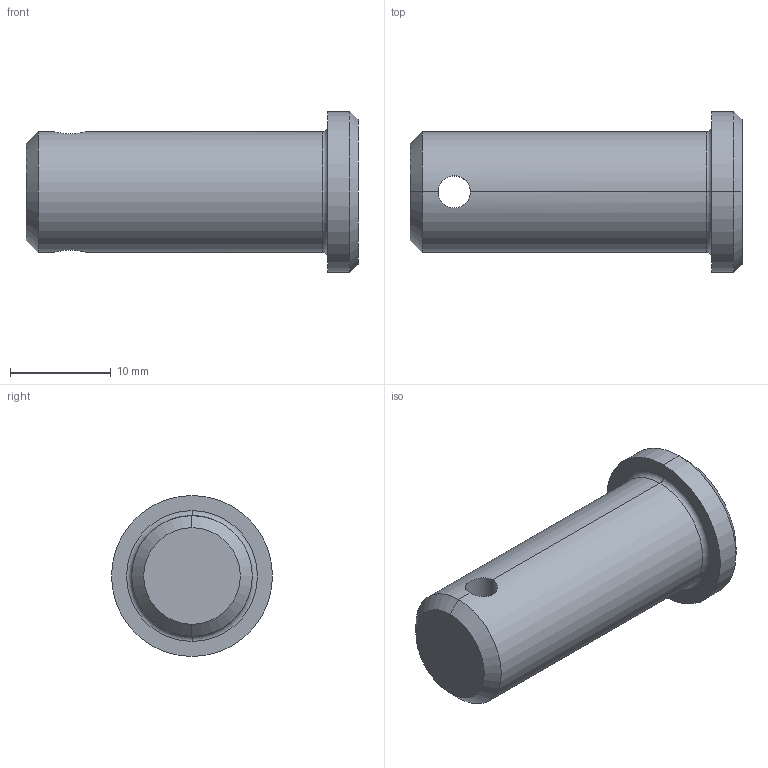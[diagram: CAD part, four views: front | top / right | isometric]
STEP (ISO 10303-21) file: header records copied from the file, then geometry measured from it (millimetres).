
FILE_DESCRIPTION (( 'STEP AP203' ), '1' );
FILE_NAME ('Wiberger-sms2360_12x30.step', '2012-10-09T08:57:25', ( 'Magnus' ), ( 'Wiberger' ), 'SwSTEP 2.0', 'SolidWorks 2011', '' );
FILE_SCHEMA (( 'CONFIG_CONTROL_DESIGN' ));
Length unit declared in the file: millimetre
Products named in the file (1): Wiberger-sms2360_12x30
Bounding box: 33 x 16 x 16 mm (x, y, z)
Volume: 3861.6 mm3; surface area: 1725.4 mm2
Topology: 1 solids, 1 shells, 15 faces, 32 edges, 18 vertices
Faces by surface type: cylinder 6, cone 4, plane 3, torus 2
Entity records: 579 total; most frequent: CARTESIAN_POINT 170, DIRECTION 76, ORIENTED_EDGE 64, EDGE_CURVE 32, AXIS2_PLACEMENT_3D 32, VERTEX_POINT 18, EDGE_LOOP 16, CIRCLE 16
